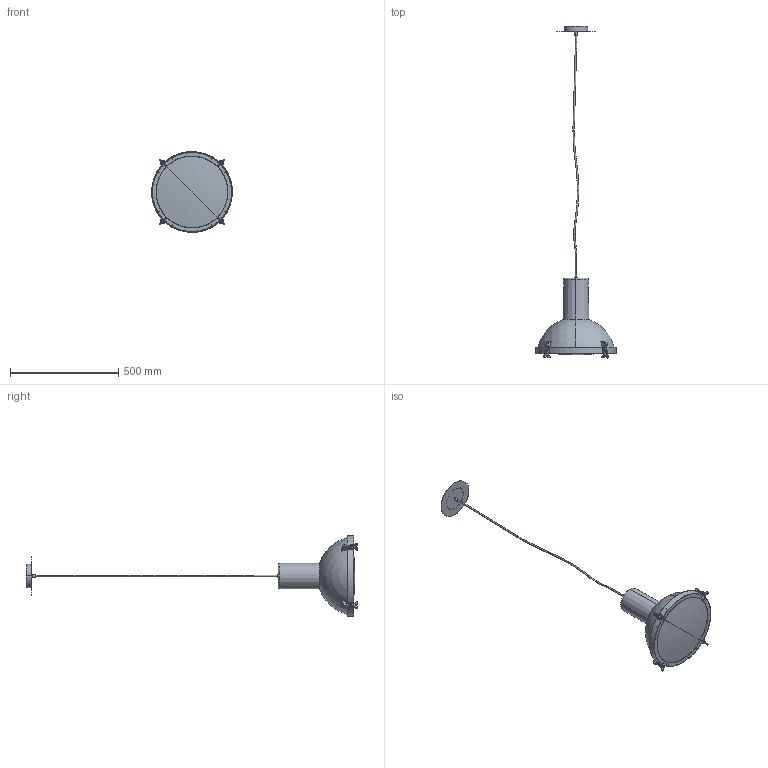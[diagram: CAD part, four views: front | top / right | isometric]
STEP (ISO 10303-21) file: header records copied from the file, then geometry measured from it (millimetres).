
FILE_DESCRIPTION (( 'STEP AP214' ), '1' );
FILE_NAME ('3D_PROJECTEUR365_PENDANT.STEP', '2018-02-26T09:33:56', ( 'Utente' ), ( '' ), 'SwSTEP 2.0', 'SolidWorks 2016', '' );
FILE_SCHEMA (( 'AUTOMOTIVE_DESIGN' ));
Length unit declared in the file: millimetre
Products named in the file (6): 082COM000388-1^3D_PROJECTEUR365_PENDANT; Group5^3D_PROJECTEUR365_PENDANT; Group4^3D_PROJECTEUR365_PENDANT; Group2^3D_PROJECTEUR365_PENDANT; Group1^3D_PROJECTEUR365_PENDANT; 3D_PROJECTEUR365_PENDANT
Assembly tree (5 placements, depth 2):
  3D_PROJECTEUR365_PENDANT
    Group1^3D_PROJECTEUR365_PENDANT
    Group2^3D_PROJECTEUR365_PENDANT
    Group4^3D_PROJECTEUR365_PENDANT
    Group5^3D_PROJECTEUR365_PENDANT
    082COM000388-1^3D_PROJECTEUR365_PENDANT
Bounding box: 372.33 x 1530.45 x 372.33 mm (x, y, z)
Volume: 11126508.8 mm3; surface area: 780866.2 mm2
Topology: 13 solids, 13 shells, 561 faces, 1424 edges, 878 vertices
Faces by surface type: plane 191, bspline 126, cylinder 96, cone 86, torus 52, sphere 10
Entity records: 28620 total; most frequent: CARTESIAN_POINT 15949, ORIENTED_EDGE 2782, DIRECTION 2117, EDGE_CURVE 1391, VERTEX_POINT 862, AXIS2_PLACEMENT_3D 859, EDGE_LOOP 585, FACE_OUTER_BOUND 561
